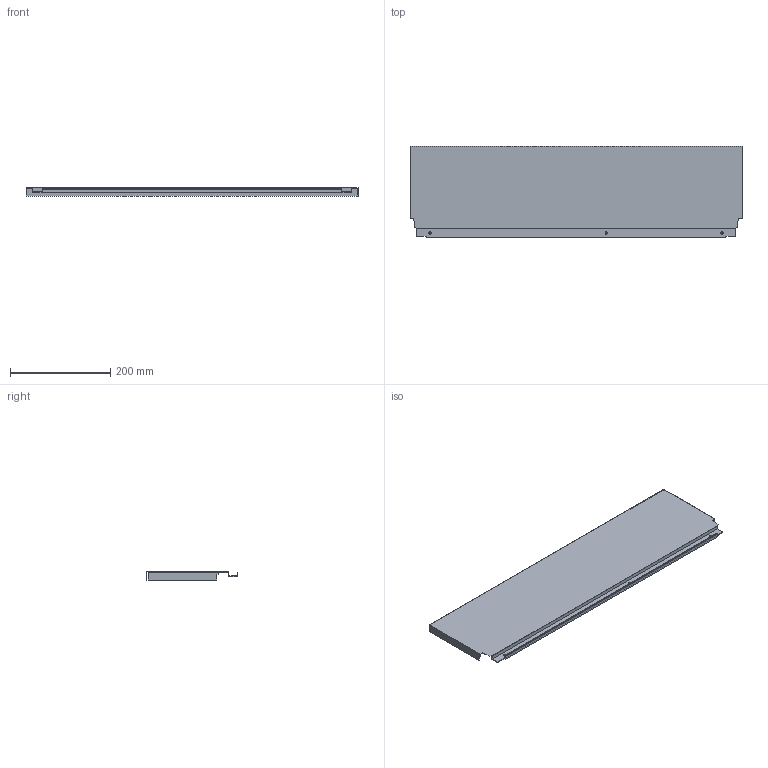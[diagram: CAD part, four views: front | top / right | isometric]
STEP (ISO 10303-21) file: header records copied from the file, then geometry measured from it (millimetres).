
FILE_DESCRIPTION (( 'STEP AP214' ), '1' );
FILE_NAME ('_DWD_XP Stahlrückwand_H182_KAB750_S19.step', '2010-07-08T12:58:09', ( 'grass' ), ( '' ), 'SwSTEP 2.0', 'SolidWorks 2010', '' );
FILE_SCHEMA (( 'AUTOMOTIVE_DESIGN' ));
Length unit declared in the file: millimetre
Products named in the file (1): _DWD_XP Stahlrückwand_H182_KAB750_S19
Bounding box: 661 x 182.49 x 16 mm (x, y, z)
Volume: 124291.5 mm3; surface area: 287824.3 mm2
Topology: 1 solids, 1 shells, 46 faces, 132 edges, 88 vertices
Faces by surface type: plane 40, cylinder 6
Entity records: 1534 total; most frequent: CARTESIAN_POINT 267, ORIENTED_EDGE 264, DIRECTION 238, EDGE_CURVE 132, LINE 120, VECTOR 120, VERTEX_POINT 88, AXIS2_PLACEMENT_3D 59
